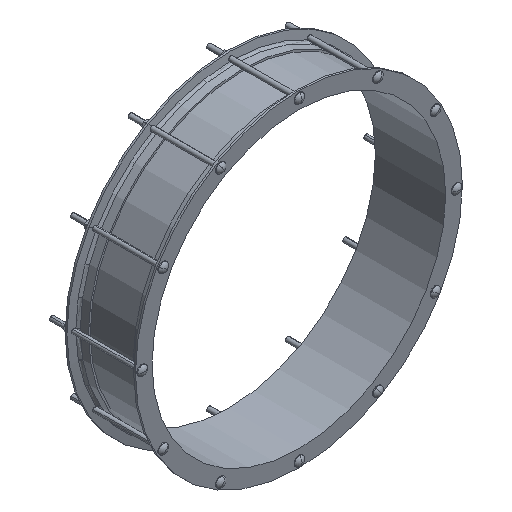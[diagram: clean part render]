
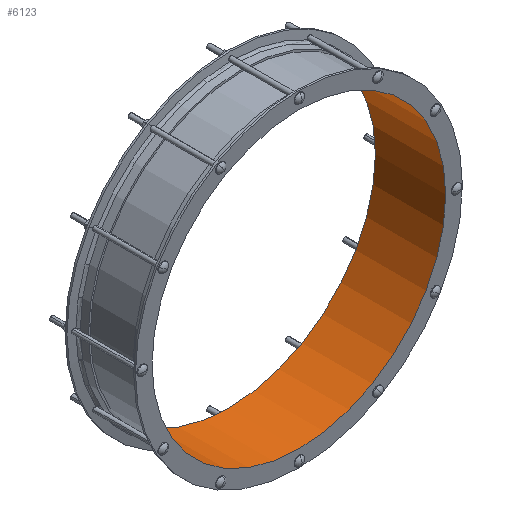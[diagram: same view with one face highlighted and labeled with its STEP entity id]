
A CAD part, isometric view. The second image highlights one B-rep face of the part: STEP entity #6123.
In plain terms, the highlighted cylindrical face has radius 384.25 mm (diameter 768.5 mm), a partial arc.
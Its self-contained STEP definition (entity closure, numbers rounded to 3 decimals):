
#256=CARTESIAN_POINT('',(0.,92.,0.));
#257=DIRECTION('',(0.,1.,0.));
#258=DIRECTION('',(-0.5,0.,0.866));
#259=AXIS2_PLACEMENT_3D('',#256,#257,#258);
#2601=DIRECTION('',(0.,1.,0.));
#2602=VECTOR('',#2601,184.);
#2603=CARTESIAN_POINT('',(-332.77,-92.,192.125));
#2604=LINE('',#2603,#2602);
#2605=DIRECTION('',(0.,1.,0.));
#2606=VECTOR('',#2605,184.);
#2607=CARTESIAN_POINT('',(-192.125,-92.,332.77));
#2608=LINE('',#2607,#2606);
#2609=CARTESIAN_POINT('',(0.,-92.,0.));
#2610=DIRECTION('',(0.,1.,0.));
#2611=DIRECTION('',(-0.5,0.,0.866));
#2612=AXIS2_PLACEMENT_3D('',#2609,#2610,#2611);
#4972=CARTESIAN_POINT('',(-332.77,-92.,192.125));
#4973=CARTESIAN_POINT('',(-332.77,92.,192.125));
#4974=VERTEX_POINT('',#4972);
#4975=VERTEX_POINT('',#4973);
#5008=CARTESIAN_POINT('',(-192.125,-92.,332.77));
#5009=CARTESIAN_POINT('',(-192.125,92.,332.77));
#5010=VERTEX_POINT('',#5008);
#5011=VERTEX_POINT('',#5009);
#6110=CARTESIAN_POINT('',(0.,-101.2,0.));
#6111=DIRECTION('',(0.,1.,0.));
#6112=DIRECTION('',(0.866,0.,0.5));
#6113=AXIS2_PLACEMENT_3D('',#6110,#6111,#6112);
#6114=CYLINDRICAL_SURFACE('',#6113,384.25);
#6116=ORIENTED_EDGE('',*,*,#6115,.T.);
#6117=ORIENTED_EDGE('',*,*,#5335,.F.);
#6119=ORIENTED_EDGE('',*,*,#6118,.F.);
#6120=ORIENTED_EDGE('',*,*,#6097,.T.);
#6121=EDGE_LOOP('',(#6116,#6117,#6119,#6120));
#6122=FACE_OUTER_BOUND('',#6121,.F.);
#6123=ADVANCED_FACE('',(#6122),#6114,.F.);
#260=CIRCLE('',#259,384.25);
#2613=CIRCLE('',#2612,384.25);
#5335=EDGE_CURVE('',#5011,#4975,#260,.T.);
#6097=EDGE_CURVE('',#5010,#4974,#2613,.T.);
#6115=EDGE_CURVE('',#4974,#4975,#2604,.T.);
#6118=EDGE_CURVE('',#5010,#5011,#2608,.T.);
